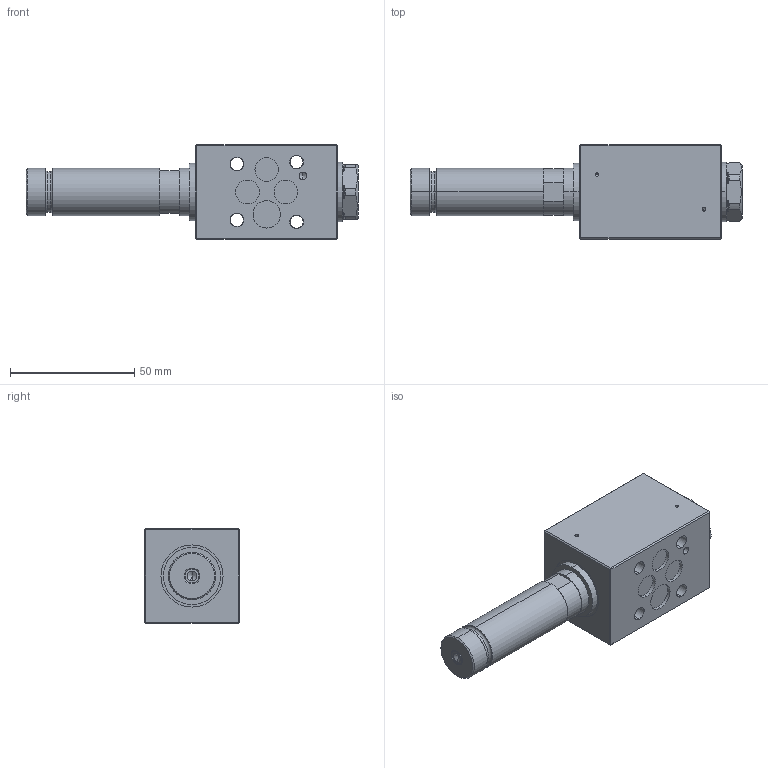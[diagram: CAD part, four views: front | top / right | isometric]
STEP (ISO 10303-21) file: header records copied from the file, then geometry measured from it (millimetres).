
FILE_DESCRIPTION (( 'STEP AP203' ), '1' );
FILE_NAME ('WDMFB04-4_2-Aside.step', '2013-07-08T06:40:03', ( 'Wandfluh AG' ), ( 'Wandfluh AG' ), 'SwSTEP 2.0', 'SolidWorks 2012', '' );
FILE_SCHEMA (( 'CONFIG_CONTROL_DESIGN' ));
Length unit declared in the file: millimetre
Products named in the file (1): WDMFB04-4_2-Aside
Bounding box: 133.5 x 38 x 38 mm (x, y, z)
Volume: 98688 mm3; surface area: 26882.7 mm2
Topology: 8 solids, 8 shells, 1091 faces, 3027 edges, 1984 vertices
Faces by surface type: plane 702, cylinder 292, cone 46, torus 32, bspline 19
Entity records: 36178 total; most frequent: CARTESIAN_POINT 7410, DIRECTION 6139, ORIENTED_EDGE 6038, EDGE_CURVE 3019, AXIS2_PLACEMENT_3D 2137, VERTEX_POINT 1984, LINE 1865, VECTOR 1865
